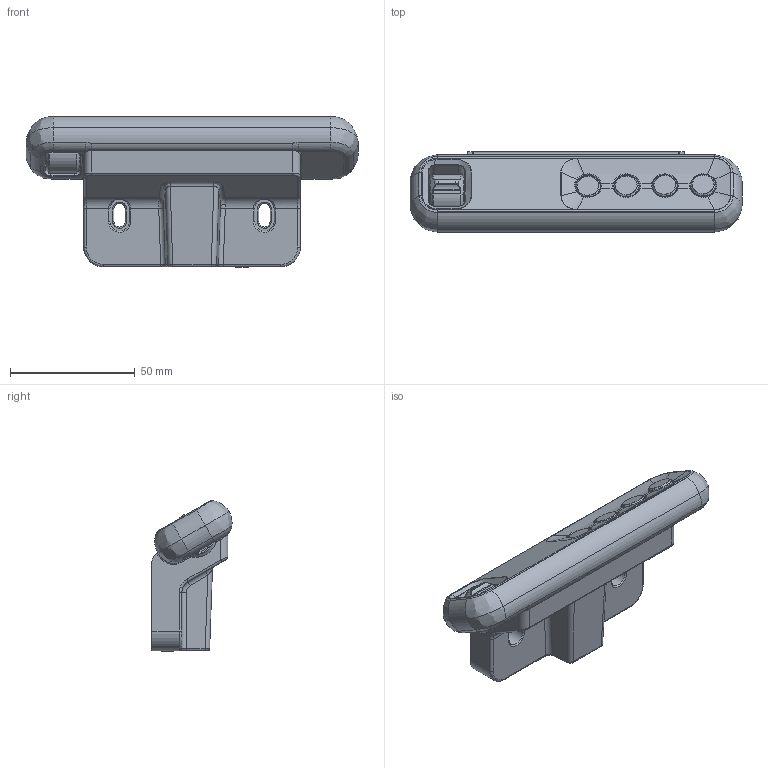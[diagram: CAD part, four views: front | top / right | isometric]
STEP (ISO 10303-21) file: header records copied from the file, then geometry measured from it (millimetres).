
FILE_DESCRIPTION (( 'STEP AP203' ), '1' );
FILE_NAME ('3D_TDH12P.STEP', '2018-06-14T07:02:30', ( '' ), ( '' ), 'SwSTEP 2.0', 'SolidWorks 2015', '' );
FILE_SCHEMA (( 'CONFIG_CONTROL_DESIGN' ));
Length unit declared in the file: millimetre
Products named in the file (7): 3D_TDH12P; TDH12P_upper housing; TDH12P_bottom housing; TDH12P_up down button; TDH12P_button; PCBA22; 螺絲^TDH12P_160620
Assembly tree (6 placements, depth 2):
  3D_TDH12P
    TDH12P_upper housing
    TDH12P_bottom housing
    TDH12P_up down button
    TDH12P_button
    PCBA22
    螺絲^TDH12P_160620
Bounding box: 133 x 32.12 x 60.46 mm (x, y, z)
Volume: 23137.5 mm3; surface area: 55604.7 mm2
Topology: 8 solids, 10 shells, 2144 faces, 5663 edges, 3545 vertices
Faces by surface type: plane 777, cylinder 769, bspline 539, cone 59
Entity records: 88238 total; most frequent: CARTESIAN_POINT 38023, ORIENTED_EDGE 11272, DIRECTION 9410, EDGE_CURVE 5637, VERTEX_POINT 3545, AXIS2_PLACEMENT_3D 3353, VECTOR 2704, LINE 2704
